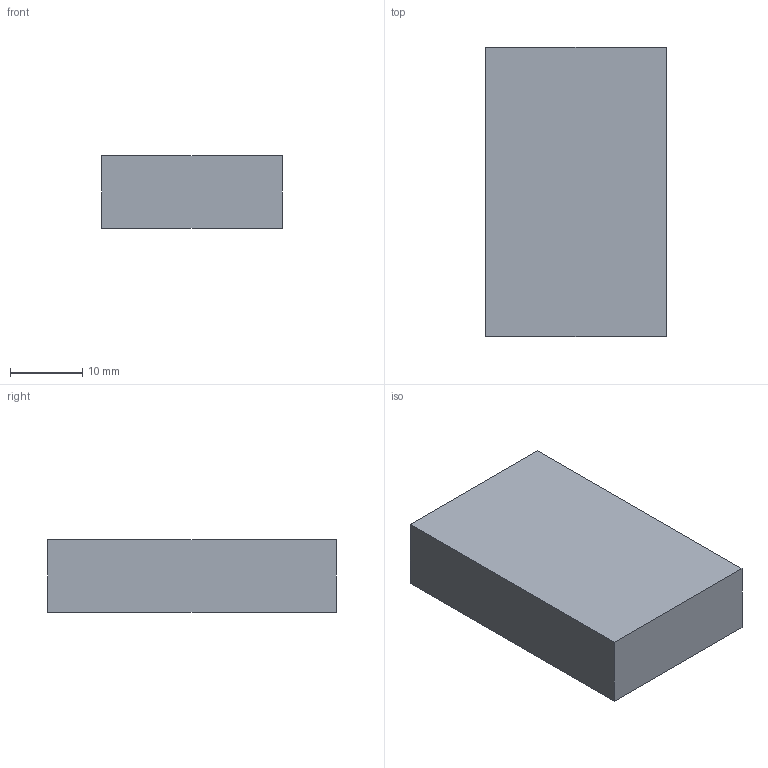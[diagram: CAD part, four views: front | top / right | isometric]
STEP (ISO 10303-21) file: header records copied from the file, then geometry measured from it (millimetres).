
FILE_DESCRIPTION(('Open CASCADE Model'),'2;1');
FILE_NAME('Open CASCADE Shape Model','2026-11-24T19:57:40',('Author'),( 'Open CASCADE'),'Open CASCADE STEP processor 7.8','Open CASCADE 7.8' ,'Unknown');
FILE_SCHEMA(('AUTOMOTIVE_DESIGN { 1 0 10303 214 1 1 1 1 }'));
Length unit declared in the file: millimetre
Products named in the file (1): Open CASCADE STEP translator 7.8 143
Bounding box: 25 x 40 x 10 mm (x, y, z)
Volume: 10000 mm3; surface area: 3300 mm2
Topology: 1 solids, 1 shells, 6 faces, 12 edges, 8 vertices
Faces by surface type: plane 6
Entity records: 322 total; most frequent: CARTESIAN_POINT 51, DIRECTION 50, LINE 36, VECTOR 36, ORIENTED_EDGE 24, PCURVE 24, DEFINITIONAL_REPRESENTATION 24, EDGE_CURVE 12
